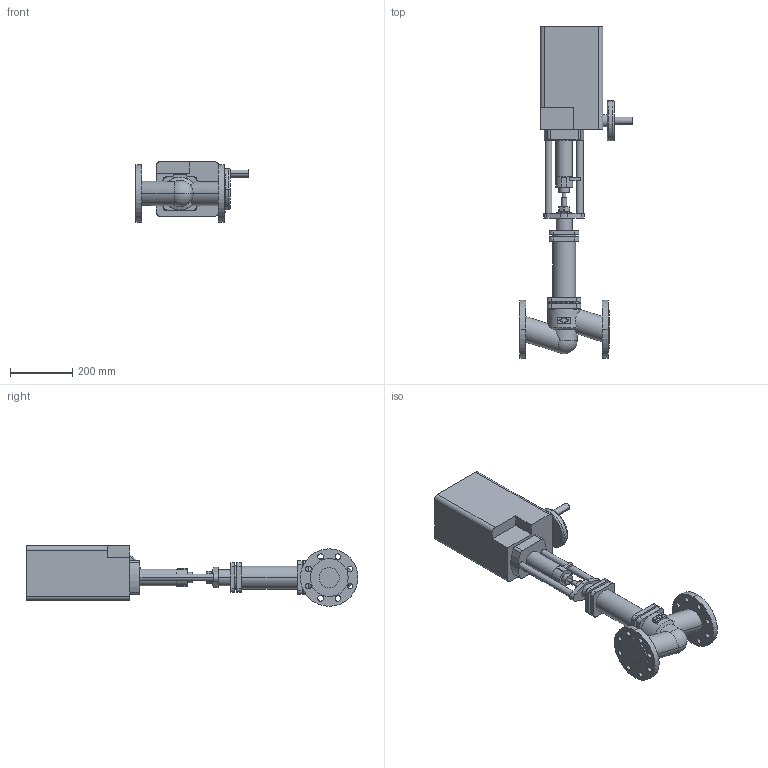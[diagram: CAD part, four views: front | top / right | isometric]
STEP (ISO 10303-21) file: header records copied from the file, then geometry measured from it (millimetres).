
FILE_DESCRIPTION(('CoCreate Modeling STEP Export'),'2;1');
FILE_NAME('c000002098.stp','2011-10-11T12:37:26',(''),(''),'CoCreate Modeling STEP processor for AP214 (Solid Model)','CoCreate Modeling 17.0 01-Apr-2010 (C) Parametric Technology GmbH','');
FILE_SCHEMA(('AUTOMOTIVE_DESIGN { 1 0 10303 214 1 1 1 1 }'));
Length unit declared in the file: millimetre
Products named in the file (2): 1; 2
Bounding box: 366.5 x 1067.5 x 195 mm (x, y, z)
Volume: 17250763.9 mm3; surface area: 772792.3 mm2
Topology: 2 solids, 2 shells, 231 faces, 577 edges, 381 vertices
Faces by surface type: cylinder 120, plane 103, torus 4, cone 2, sphere 2
Entity records: 8588 total; most frequent: CARTESIAN_POINT 1363, ORIENTED_EDGE 1150, DIRECTION 1030, EDGE_CURVE 575, VERTEX_POINT 381, AXIS2_PLACEMENT_3D 366, VECTOR 298, LINE 298
